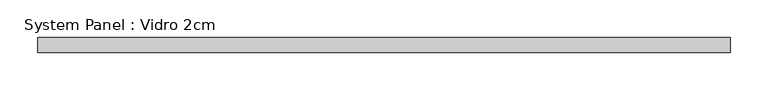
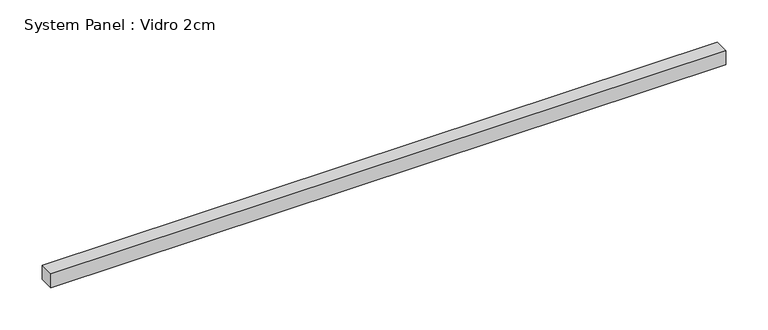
"""IFC4 building model written with IfcOpenShell, lengths in millimetres: plate geometry, System Panel : Vidro 2cm."""

from ifc_helpers import new_model, si_unit, origin, origin_with_axes, place, context, project, spatial, polyline, outline, extrude, source, transform, mapped, element, save


def system_panel_vidro_2cm_d83b4e50(model_context):
    return source(origin(), model_context, "Body", "SweptSolid", [
        extrude(outline(polyline([(460.0000002, -20.0), (-460.0000002, -20.0), (-460.0000002, 0.0), (460.0000002, 0.0), (460.0000002, -20.0)])), origin_with_axes(), (0.0, 0.0, 1.0), 20.0),
    ])


if __name__ == "__main__":
    model = new_model("IFC4")
    model_context = context("Model", 3, world=origin())
    ifc_project = project(units=[si_unit("LENGTHUNIT", "METRE", prefix="MILLI")], contexts=[model_context])
    site = spatial("IfcSite", under=ifc_project)
    building = spatial("IfcBuilding", under=site)
    placement = place(None, origin())
    system_panel_vidro_2cm_shape = system_panel_vidro_2cm_d83b4e50(model_context)
    element("IfcPlate", 1, ObjectType="System Panel : Vidro 2cm", at=placement, inside=building, context=model_context, shape_type="MappedRepresentation", body=[
        mapped(system_panel_vidro_2cm_shape, transform((0.0, 0.0, 0.0), x_axis=(1.0, 0.0, 0.0), y_axis=(0.0, 1.0, 0.0), z_axis=(0.0, 0.0, 1.0))),
    ])
    save(model, "model.ifc")
